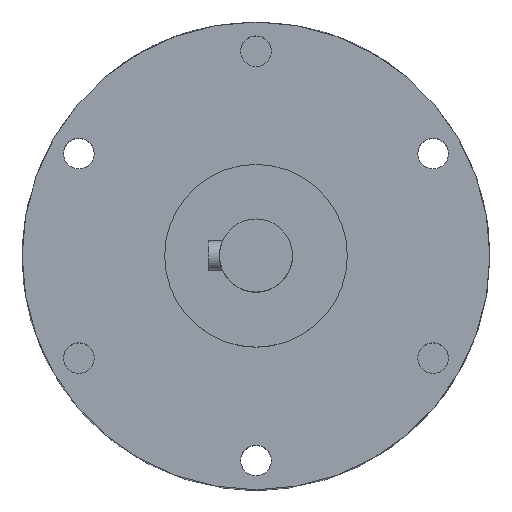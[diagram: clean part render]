
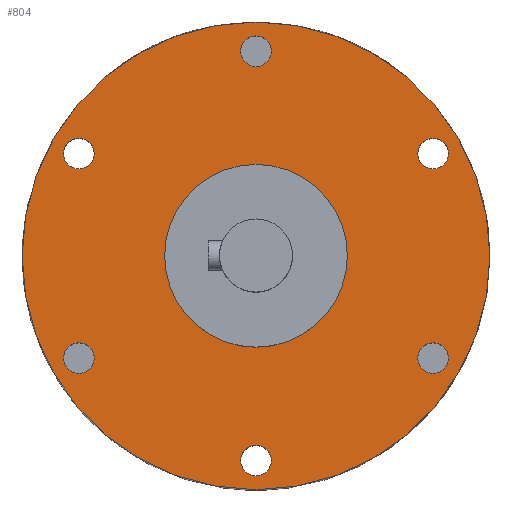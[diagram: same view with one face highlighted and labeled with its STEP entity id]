
A CAD part, top view. The second image highlights one B-rep face of the part: STEP entity #804.
In plain terms, the highlighted planar face has unit normal (0, 0, 1).
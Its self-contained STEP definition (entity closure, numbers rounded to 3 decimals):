
#121=PLANE('',#904);
#168=FACE_BOUND('',#291,.T.);
#169=FACE_BOUND('',#292,.T.);
#170=FACE_BOUND('',#293,.T.);
#171=FACE_BOUND('',#294,.T.);
#172=FACE_BOUND('',#295,.T.);
#173=FACE_BOUND('',#296,.T.);
#174=FACE_BOUND('',#297,.T.);
#175=FACE_BOUND('',#298,.T.);
#291=EDGE_LOOP('',(#647));
#292=EDGE_LOOP('',(#648));
#293=EDGE_LOOP('',(#649));
#294=EDGE_LOOP('',(#650));
#295=EDGE_LOOP('',(#651));
#296=EDGE_LOOP('',(#652));
#297=EDGE_LOOP('',(#653));
#298=EDGE_LOOP('',(#654));
#314=CIRCLE('',#823,2.1);
#316=CIRCLE('',#827,2.1);
#318=CIRCLE('',#831,2.1);
#320=CIRCLE('',#835,2.1);
#323=CIRCLE('',#840,2.1);
#327=CIRCLE('',#847,2.1);
#354=CIRCLE('',#903,32.);
#355=CIRCLE('',#905,12.5);
#362=VERTEX_POINT('',#1178);
#364=VERTEX_POINT('',#1184);
#366=VERTEX_POINT('',#1190);
#368=VERTEX_POINT('',#1196);
#371=VERTEX_POINT('',#1204);
#375=VERTEX_POINT('',#1215);
#416=VERTEX_POINT('',#1404);
#417=VERTEX_POINT('',#1407);
#432=EDGE_CURVE('',#362,#362,#314,.T.);
#434=EDGE_CURVE('',#364,#364,#316,.T.);
#436=EDGE_CURVE('',#366,#366,#318,.T.);
#438=EDGE_CURVE('',#368,#368,#320,.T.);
#441=EDGE_CURVE('',#371,#371,#323,.T.);
#445=EDGE_CURVE('',#375,#375,#327,.T.);
#498=EDGE_CURVE('',#416,#416,#354,.T.);
#499=EDGE_CURVE('',#417,#417,#355,.T.);
#647=ORIENTED_EDGE('',*,*,#432,.T.);
#648=ORIENTED_EDGE('',*,*,#434,.T.);
#649=ORIENTED_EDGE('',*,*,#436,.T.);
#650=ORIENTED_EDGE('',*,*,#438,.T.);
#651=ORIENTED_EDGE('',*,*,#441,.T.);
#652=ORIENTED_EDGE('',*,*,#445,.T.);
#653=ORIENTED_EDGE('',*,*,#498,.T.);
#654=ORIENTED_EDGE('',*,*,#499,.F.);
#804=ADVANCED_FACE('',(#168,#169,#170,#171,#172,#173,#174,#175),#121,.T.);
#823=AXIS2_PLACEMENT_3D('',#1179,#932,#933);
#827=AXIS2_PLACEMENT_3D('',#1185,#940,#941);
#831=AXIS2_PLACEMENT_3D('',#1191,#948,#949);
#835=AXIS2_PLACEMENT_3D('',#1197,#956,#957);
#840=AXIS2_PLACEMENT_3D('',#1205,#966,#967);
#847=AXIS2_PLACEMENT_3D('',#1216,#980,#981);
#903=AXIS2_PLACEMENT_3D('',#1405,#1116,#1117);
#904=AXIS2_PLACEMENT_3D('',#1406,#1118,#1119);
#905=AXIS2_PLACEMENT_3D('',#1408,#1120,#1121);
#932=DIRECTION('center_axis',(0.,0.,-1.));
#933=DIRECTION('ref_axis',(-1.,0.,0.));
#940=DIRECTION('center_axis',(0.,0.,-1.));
#941=DIRECTION('ref_axis',(-1.,0.,0.));
#948=DIRECTION('center_axis',(0.,0.,-1.));
#949=DIRECTION('ref_axis',(-1.,0.,0.));
#956=DIRECTION('center_axis',(0.,0.,-1.));
#957=DIRECTION('ref_axis',(-1.,0.,0.));
#966=DIRECTION('center_axis',(0.,0.,-1.));
#967=DIRECTION('ref_axis',(-1.,0.,0.));
#980=DIRECTION('center_axis',(0.,0.,-1.));
#981=DIRECTION('ref_axis',(-1.,0.,0.));
#1116=DIRECTION('center_axis',(0.,0.,1.));
#1117=DIRECTION('ref_axis',(1.,0.,0.));
#1118=DIRECTION('center_axis',(0.,0.,1.));
#1119=DIRECTION('ref_axis',(1.,0.,0.));
#1120=DIRECTION('center_axis',(0.,0.,1.));
#1121=DIRECTION('ref_axis',(1.,0.,0.));
#1178=CARTESIAN_POINT('',(-22.149,-14.,22.5));
#1179=CARTESIAN_POINT('Origin',(-24.249,-14.,22.5));
#1184=CARTESIAN_POINT('',(2.1,28.,22.5));
#1185=CARTESIAN_POINT('Origin',(0.,28.,22.5));
#1190=CARTESIAN_POINT('',(26.349,-14.,22.5));
#1191=CARTESIAN_POINT('Origin',(24.249,-14.,22.5));
#1196=CARTESIAN_POINT('',(2.1,-28.,22.5));
#1197=CARTESIAN_POINT('Origin',(0.,-28.,22.5));
#1204=CARTESIAN_POINT('',(26.349,14.,22.5));
#1205=CARTESIAN_POINT('Origin',(24.249,14.,22.5));
#1215=CARTESIAN_POINT('',(-22.149,14.,22.5));
#1216=CARTESIAN_POINT('Origin',(-24.249,14.,22.5));
#1404=CARTESIAN_POINT('',(32.,0.,22.5));
#1405=CARTESIAN_POINT('Origin',(0.,0.,22.5));
#1406=CARTESIAN_POINT('Origin',(12.5,0.,22.5));
#1407=CARTESIAN_POINT('',(12.5,0.,22.5));
#1408=CARTESIAN_POINT('Origin',(0.,0.,22.5));
